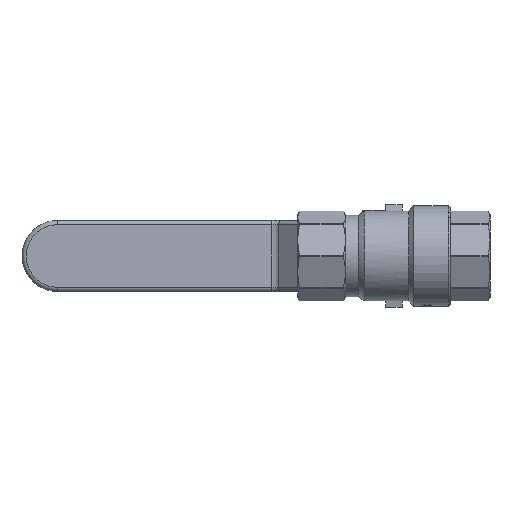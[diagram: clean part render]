
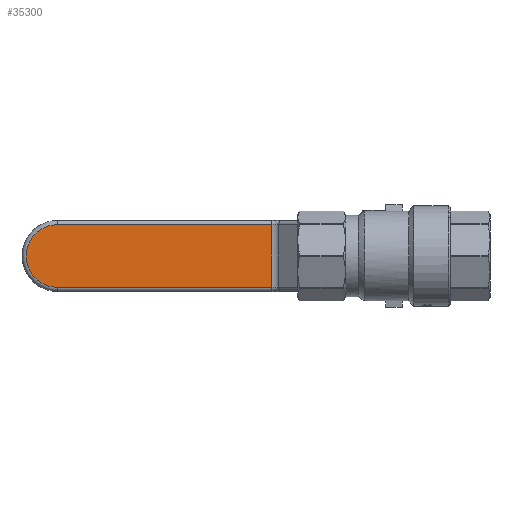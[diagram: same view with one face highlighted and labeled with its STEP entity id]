
A CAD part, front view. The second image highlights one B-rep face of the part: STEP entity #35300.
In plain terms, the highlighted planar face has unit normal (0, -1, 0).
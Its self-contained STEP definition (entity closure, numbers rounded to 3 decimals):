
#35232=CARTESIAN_POINT('',(-29.177,36.4,-7.5));
#35233=VERTEX_POINT('',#35232);
#35234=CARTESIAN_POINT('',(-29.177,36.4,7.5));
#35235=VERTEX_POINT('',#35234);
#35236=CARTESIAN_POINT('',(-29.177,36.4,-7.5));
#35237=DIRECTION('',(0.0,0.0,1.0));
#35238=VECTOR('',#35237,15.0);
#35239=LINE('',#35236,#35238);
#35240=EDGE_CURVE('',#35233,#35235,#35239,.T.);
#35269=CARTESIAN_POINT('',(-26.993,36.4,-23.5));
#35270=DIRECTION('',(0.0,1.0,0.0));
#35271=DIRECTION('',(0.0,0.0,-1.0));
#35272=AXIS2_PLACEMENT_3D('',#35269,#35270,#35271);
#35273=PLANE('',#35272);
#35274=ORIENTED_EDGE('',*,*,#35240,.T.);
#35275=CARTESIAN_POINT('',(-80.5,36.4,7.5));
#35276=VERTEX_POINT('',#35275);
#35277=CARTESIAN_POINT('',(-29.177,36.4,7.5));
#35278=DIRECTION('',(-1.0,0.0,0.0));
#35279=VECTOR('',#35278,51.323);
#35280=LINE('',#35277,#35279);
#35281=EDGE_CURVE('',#35235,#35276,#35280,.T.);
#35282=ORIENTED_EDGE('',*,*,#35281,.T.);
#35283=CARTESIAN_POINT('',(-80.5,36.4,-7.5));
#35284=VERTEX_POINT('',#35283);
#35285=CARTESIAN_POINT('',(-80.5,36.4,0.));
#35286=DIRECTION('',(0.0,-1.0,0.0));
#35287=DIRECTION('',(0.0,0.0,1.0));
#35288=AXIS2_PLACEMENT_3D('',#35285,#35286,#35287);
#35289=CIRCLE('',#35288,7.5);
#35290=EDGE_CURVE('',#35276,#35284,#35289,.T.);
#35291=ORIENTED_EDGE('',*,*,#35290,.T.);
#35292=CARTESIAN_POINT('',(-80.5,36.4,-7.5));
#35293=DIRECTION('',(1.0,0.0,0.0));
#35294=VECTOR('',#35293,51.323);
#35295=LINE('',#35292,#35294);
#35296=EDGE_CURVE('',#35284,#35233,#35295,.T.);
#35297=ORIENTED_EDGE('',*,*,#35296,.T.);
#35298=EDGE_LOOP('',(#35274,#35282,#35291,#35297));
#35299=FACE_OUTER_BOUND('',#35298,.T.);
#35300=ADVANCED_FACE('',(#35299),#35273,.F.);
